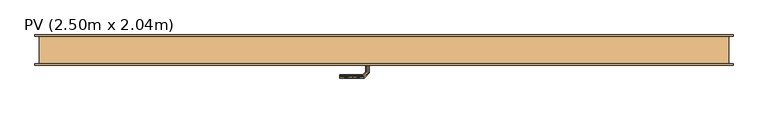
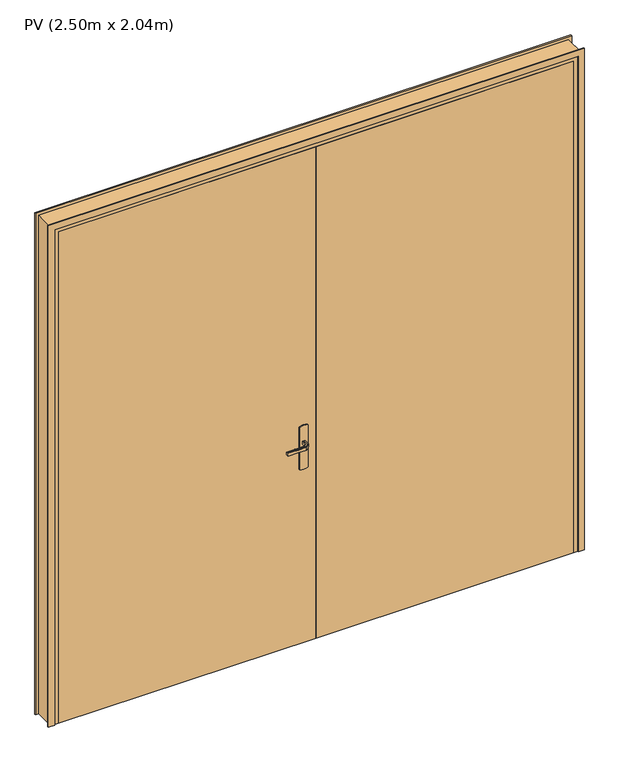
"""IFC4 building model written with IfcOpenShell, lengths in millimetres: door geometry, PV (2.50m x 2.04m)."""

from ifc_helpers import new_model, si_unit, frame, origin, origin_with_axes, place, context, project, spatial, polyline, outline, extrude, faceted_brep, source, transform, mapped, element, save


def pv_2_50m_x_2_04m_500f4c4f(model_context):
    return source(origin(), model_context, "Body", "SolidModel", [
        extrude(outline(polyline([(870.0, 1280.0), (1080.0, 1280.0), (1083.9960169, 1270.3527618), (1085.3589838, 1260.0), (1083.9960169, 1249.6472382), (1080.0, 1240.0), (870.0, 1240.0), (866.0039831, 1249.6472382), (864.6410162, 1260.0), (866.0039831, 1270.3527618), (870.0, 1280.0)])), frame((0.0, -5.0, 0.0), z_axis=(0.0, 1.0, 0.0), x_axis=(0.0, 0.0, 1.0)), (0.0, 0.0, 1.0), 5.0),
        extrude(outline(polyline([(0.0, 2585.0), (2500.0, 2585.0), (2500.0, 55.0), (0.0, 55.0), (0.0, 85.0), (2470.0, 85.0), (2470.0, 2555.0), (0.0, 2555.0), (0.0, 2585.0)])), frame((0.0, 100.0, 0.0), z_axis=(0.0, 1.0, 0.0), x_axis=(0.0, 0.0, 1.0)), (0.0, 0.0, 1.0), 5.0),
        extrude(outline(polyline([(0.0, 2585.0), (2500.0, 2585.0), (2500.0, 55.0), (0.0, 55.0), (0.0, 85.0), (2470.0, 85.0), (2470.0, 2555.0), (0.0, 2555.0), (0.0, 2585.0)])), frame((0.0, -5.0, 0.0), z_axis=(0.0, 1.0, 0.0), x_axis=(0.0, 0.0, 1.0)), (0.0, 0.0, 1.0), 5.0),
        faceted_brep([(1257.9747013, -5.0, 1007.7804408), (1262.0252987, -5.0, 1007.7804408), (1266.0, -5.0, 1007.0), (1266.0, -5.0, 993.0), (1262.0252987, -5.0, 992.2195592), (1257.9747013, -5.0, 992.2195592), (1254.0, -5.0, 993.0), (1254.0, -5.0, 1007.0), (1262.0252987, -31.0045755, 1007.7804408), (1266.0, -32.6509507, 1007.0), (1257.9747013, -29.3267632, 1007.7804408), (1244.2986025, -43.002862, 1007.7804408), (1245.9764148, -47.0534593, 1007.7804408), (1254.0, -27.680388, 1007.0), (1254.0, -27.680388, 993.0), (1257.9747013, -29.3267632, 992.2195592), (1262.0252987, -31.0045755, 992.2195592), (1245.9764148, -47.0534593, 992.2195592), (1244.2986025, -43.002862, 992.2195592), (1266.0, -32.6509507, 993.0), (1247.62279, -51.0281607, 1007.0), (1242.6522273, -39.0281607, 1007.0), (1242.6522273, -39.0281607, 993.0), (1247.62279, -51.0281607, 993.0), (1159.9813594, -51.0281607, 1007.0), (1159.9813594, -47.0534593, 1007.7804408), (1159.9813594, -43.002862, 1007.7804408), (1159.9813594, -39.0281607, 1007.0), (1159.9813594, -39.0281607, 993.0), (1159.9813594, -43.002862, 992.2195592), (1159.9813594, -47.0534593, 992.2195592), (1159.9813594, -51.0281607, 993.0), (1202.1399809, -45.0281607, 1007.8786868), (1207.6923028, -51.0281607, 1007.0), (1201.3167933, -39.0281607, 1007.0), (1201.3167933, -39.0281607, 993.0), (1202.1399811, -45.0281608, 992.1213132), (1207.6923104, -51.0281607, 993.0)], [[[0, 1, 2, 3, 4, 5, 6, 7]], [[2, 1, 8, 9]], [[1, 0, 10, 11, 12, 8]], [[0, 7, 13, 10]], [[14, 13, 7, 6]], [[5, 15, 14, 6]], [[5, 4, 16, 17, 18, 15]], [[3, 19, 16, 4]], [[9, 19, 3, 2]], [[9, 8, 12, 20]], [[10, 13, 21, 11]], [[22, 21, 13, 14]], [[14, 15, 18, 22]], [[16, 19, 23, 17]], [[20, 23, 19, 9]], [[24, 25, 26, 27, 28, 29, 30, 31]], [[32, 25, 33]], [[33, 25, 24]], [[33, 20, 12]], [[11, 34, 32]], [[34, 11, 21]], [[27, 26, 34]], [[32, 26, 25]], [[32, 34, 26]], [[32, 33, 12]], [[11, 32, 12]], [[21, 22, 35, 28, 27, 34]], [[36, 29, 35]], [[30, 36, 37]], [[18, 35, 22]], [[29, 28, 35]], [[30, 37, 31]], [[37, 17, 23]], [[36, 17, 37]], [[36, 18, 17]], [[36, 35, 18]], [[29, 36, 30]], [[23, 20, 33, 24, 31, 37]]]),
        extrude(outline(polyline([(870.0, 1280.0), (1080.0, 1280.0), (1083.9960169, 1270.3527618), (1085.3589838, 1260.0), (1083.9960169, 1249.6472382), (1080.0, 1240.0), (870.0, 1240.0), (866.0039831, 1249.6472382), (864.6410162, 1260.0), (866.0039831, 1270.3527618), (870.0, 1280.0)])), frame((0.0, 40.0, 0.0), z_axis=(0.0, 1.0, 0.0), x_axis=(0.0, 0.0, 1.0)), (0.0, 0.0, 1.0), 5.0),
        extrude(outline(polyline([(1320.0, 40.0), (2535.0, 40.0), (2535.0, 0.0), (1320.0, 0.0), (1320.0, 40.0)])), origin_with_axes(), (0.0, 0.0, 1.0), 2450.0),
        faceted_brep([(2570.0, 0.0, 0.0), (2535.0, 0.0, 0.0), (2535.0, 40.0, 0.0), (2520.0, 40.0, 0.0), (2520.0, 100.0, 0.0), (2570.0, 100.0, 0.0), (2570.0, 100.0, 2485.0), (2570.0, 0.0, 2485.0), (2520.0, 100.0, 2435.0), (120.0, 100.0, 2435.0), (120.0, 100.0, 0.0), (70.0, 100.0, 0.0), (70.0, 100.0, 2485.0), (2520.0, 40.0, 2435.0), (2535.0, 40.0, 2450.0), (105.0, 40.0, 2450.0), (105.0, 40.0, 0.0), (120.0, 40.0, 0.0), (120.0, 40.0, 2435.0), (2535.0, 0.0, 2450.0), (70.0, 0.0, 2485.0), (70.0, 0.0, 0.0), (105.0, 0.0, 0.0), (105.0, 0.0, 2450.0)], [[[0, 1, 2, 3, 4, 5]], [[5, 6, 7, 0]], [[4, 8, 9, 10, 11, 12, 6, 5]], [[3, 13, 8, 4]], [[2, 14, 15, 16, 17, 18, 13, 3]], [[1, 19, 14, 2]], [[0, 7, 20, 21, 22, 23, 19, 1]], [[12, 11, 21, 20]], [[21, 11, 10, 17, 16, 22]], [[18, 17, 10, 9]], [[23, 22, 16, 15]], [[6, 12, 20, 7]], [[13, 18, 9, 8]], [[19, 23, 15, 14]]]),
        extrude(outline(polyline([(1320.0, 40.0), (1320.0, 0.0), (105.0, 0.0), (105.0, 40.0), (1320.0, 40.0)])), origin_with_axes(), (0.0, 0.0, 1.0), 2450.0),
        faceted_brep([(1257.9747013, 45.0, 992.2195592), (1262.0252987, 45.0, 992.2195592), (1266.0, 45.0, 993.0), (1266.0, 45.0, 1007.0), (1262.0252987, 45.0, 1007.7804408), (1257.9747013, 45.0, 1007.7804408), (1254.0, 45.0, 1007.0), (1254.0, 45.0, 993.0), (1254.0, 67.4852045, 1007.0), (1254.0, 67.4852045, 993.0), (1257.9747013, 69.1315797, 1007.7804408), (1262.0252987, 70.8093921, 1007.7804408), (1245.8389062, 86.9957845, 1007.7804408), (1244.1610938, 82.9451872, 1007.7804408), (1266.0, 72.4557673, 1007.0), (1266.0, 72.4557673, 993.0), (1262.0252987, 70.8093921, 992.2195592), (1257.9747013, 69.1315797, 992.2195592), (1244.1610938, 82.9451872, 992.2195592), (1245.8389062, 86.9957845, 992.2195592), (1242.5147186, 78.9704859, 1007.0), (1242.5147186, 78.9704859, 993.0), (1247.4852814, 90.9704859, 1007.0), (1247.4852814, 90.9704859, 993.0), (1159.9542163, 82.9451872, 1007.7804408), (1159.9542163, 86.9957845, 1007.7804408), (1159.9542163, 90.9704859, 1007.0), (1159.9542163, 90.9704859, 993.0), (1159.9542163, 86.9957845, 992.2195592), (1159.9542163, 82.9451872, 992.2195592), (1159.9542163, 78.9704859, 993.0), (1159.9542163, 78.9704859, 1007.0), (1201.2344675, 78.9704859, 1007.0), (1201.2344794, 78.9704859, 993.0), (1202.0576551, 84.9704859, 1007.8786868), (1207.5547942, 90.9704859, 1007.0), (1207.5547957, 90.9704859, 993.0), (1202.0576549, 84.9704858, 992.1213132)], [[[0, 1, 2, 3, 4, 5, 6, 7]], [[8, 9, 7, 6]], [[5, 10, 8, 6]], [[5, 4, 11, 12, 13, 10]], [[3, 14, 11, 4]], [[14, 3, 2, 15]], [[2, 1, 16, 15]], [[1, 0, 17, 18, 19, 16]], [[0, 7, 9, 17]], [[20, 21, 9, 8]], [[8, 10, 13, 20]], [[14, 22, 12, 11]], [[23, 22, 14, 15]], [[15, 16, 19, 23]], [[17, 9, 21, 18]], [[24, 25, 26, 27, 28, 29, 30, 31]], [[21, 20, 32, 31, 30, 33]], [[34, 24, 32]], [[25, 34, 35]], [[13, 32, 20]], [[24, 31, 32]], [[25, 35, 26]], [[35, 12, 22]], [[34, 12, 35]], [[34, 13, 12]], [[34, 32, 13]], [[24, 34, 25]], [[22, 23, 36, 27, 26, 35]], [[37, 28, 36]], [[36, 28, 27]], [[36, 23, 19]], [[18, 33, 37]], [[33, 18, 21]], [[30, 29, 33]], [[37, 29, 28]], [[37, 33, 29]], [[37, 36, 19]], [[18, 37, 19]]]),
    ])


if __name__ == "__main__":
    model = new_model("IFC4")
    model_context = context("Model", 3, world=origin())
    ifc_project = project(units=[si_unit("LENGTHUNIT", "METRE", prefix="MILLI")], contexts=[model_context])
    site = spatial("IfcSite", under=ifc_project)
    building = spatial("IfcBuilding", under=site)
    placement = place(None, origin())
    pv_2_50m_x_2_04m_shape = pv_2_50m_x_2_04m_500f4c4f(model_context)
    element("IfcDoor", 1, ObjectType="PV (2.50m x 2.04m)", at=placement, inside=building, context=model_context, shape_type="MappedRepresentation", body=[
        mapped(pv_2_50m_x_2_04m_shape, transform((0.0, 0.0, 0.0), x_axis=(1.0, 0.0, 0.0), y_axis=(0.0, 1.0, 0.0), z_axis=(0.0, 0.0, 1.0))),
    ])
    save(model, "model.ifc")
